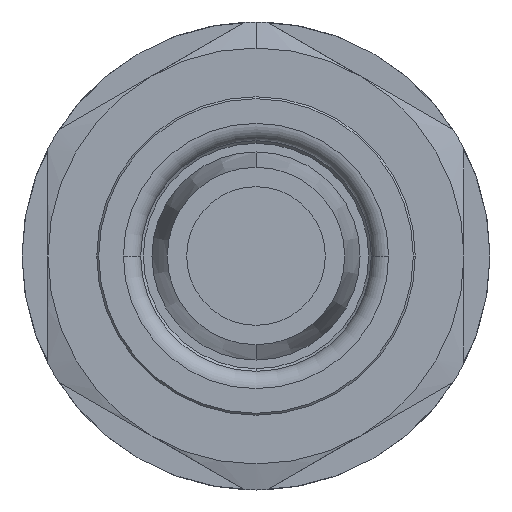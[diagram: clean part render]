
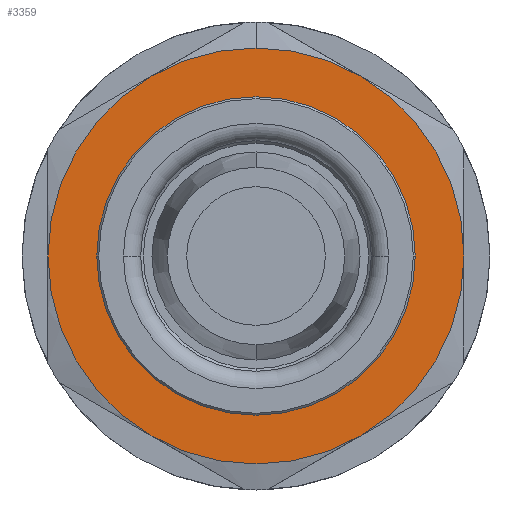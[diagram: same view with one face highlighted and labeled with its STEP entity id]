
A CAD part, front view. The second image highlights one B-rep face of the part: STEP entity #3359.
In plain terms, the highlighted planar face has unit normal (0, -1, 0).
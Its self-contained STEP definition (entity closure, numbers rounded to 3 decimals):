
#180 = DIRECTION ( 'NONE',  ( 0., 0., -1. ) ) ;
#451 = CIRCLE ( 'NONE', #4197, 9.188 ) ;
#568 = AXIS2_PLACEMENT_3D ( 'NONE', #6126, #11260, #2897 ) ;
#578 = VERTEX_POINT ( 'NONE', #930 ) ;
#930 = CARTESIAN_POINT ( 'NONE',  ( -6., -40., -10.392 ) ) ;
#1104 = AXIS2_PLACEMENT_3D ( 'NONE', #12212, #6114, #6158 ) ;
#1124 = CARTESIAN_POINT ( 'NONE',  ( 0., -40., 0. ) ) ;
#1163 = ORIENTED_EDGE ( 'NONE', *, *, #9741, .T. ) ;
#1365 = DIRECTION ( 'NONE',  ( 0., 0., -1. ) ) ;
#1403 = DIRECTION ( 'NONE',  ( 0., -1., 0. ) ) ;
#1471 = EDGE_CURVE ( 'NONE', #7799, #11295, #6418, .T. ) ;
#2328 = DIRECTION ( 'NONE',  ( 0., 0., -1. ) ) ;
#2413 = DIRECTION ( 'NONE',  ( 0., -1., 0. ) ) ;
#2723 = CARTESIAN_POINT ( 'NONE',  ( 0., -40., -9.188 ) ) ;
#2883 = ORIENTED_EDGE ( 'NONE', *, *, #12724, .T. ) ;
#2897 = DIRECTION ( 'NONE',  ( 0., 0., -1. ) ) ;
#2936 = EDGE_CURVE ( 'NONE', #578, #5709, #5578, .T. ) ;
#2962 = CIRCLE ( 'NONE', #5988, 12. ) ;
#3025 = DIRECTION ( 'NONE',  ( 0., 1., 0. ) ) ;
#3090 = DIRECTION ( 'NONE',  ( 0., -1., 0. ) ) ;
#3140 = DIRECTION ( 'NONE',  ( 0., 0., -1. ) ) ;
#3359 = ADVANCED_FACE ( 'NONE', ( #4927, #11381 ), #13203, .F. ) ;
#4152 = CARTESIAN_POINT ( 'NONE',  ( 0., -40., 0. ) ) ;
#4196 = EDGE_CURVE ( 'NONE', #6180, #5344, #8783, .T. ) ;
#4197 = AXIS2_PLACEMENT_3D ( 'NONE', #11907, #12942, #10852 ) ;
#4263 = DIRECTION ( 'NONE',  ( 0., -1., 0. ) ) ;
#4771 = AXIS2_PLACEMENT_3D ( 'NONE', #13240, #3025, #11118 ) ;
#4787 = VERTEX_POINT ( 'NONE', #2723 ) ;
#4927 = FACE_BOUND ( 'NONE', #9414, .T. ) ;
#5015 = EDGE_CURVE ( 'NONE', #11295, #6180, #2962, .T. ) ;
#5151 = CARTESIAN_POINT ( 'NONE',  ( 6., -40., -10.392 ) ) ;
#5344 = VERTEX_POINT ( 'NONE', #10456 ) ;
#5423 = EDGE_CURVE ( 'NONE', #5344, #578, #11817, .T. ) ;
#5453 = CARTESIAN_POINT ( 'NONE',  ( 0., -40., 9.188 ) ) ;
#5459 = CARTESIAN_POINT ( 'NONE',  ( 0., -40., 0. ) ) ;
#5578 = CIRCLE ( 'NONE', #12278, 12. ) ;
#5709 = VERTEX_POINT ( 'NONE', #5151 ) ;
#5903 = CIRCLE ( 'NONE', #8194, 12. ) ;
#5920 = CARTESIAN_POINT ( 'NONE',  ( -6., -40., 10.392 ) ) ;
#5988 = AXIS2_PLACEMENT_3D ( 'NONE', #11744, #7657, #11655 ) ;
#6114 = DIRECTION ( 'NONE',  ( 0., 1., 0. ) ) ;
#6126 = CARTESIAN_POINT ( 'NONE',  ( 0., -40., 0. ) ) ;
#6158 = DIRECTION ( 'NONE',  ( 0., 0., 1. ) ) ;
#6180 = VERTEX_POINT ( 'NONE', #5920 ) ;
#6269 = CARTESIAN_POINT ( 'NONE',  ( 0., -40., 12. ) ) ;
#6418 = CIRCLE ( 'NONE', #9941, 12. ) ;
#7243 = ORIENTED_EDGE ( 'NONE', *, *, #9731, .T. ) ;
#7367 = CIRCLE ( 'NONE', #8827, 12. ) ;
#7657 = DIRECTION ( 'NONE',  ( 0., -1., 0. ) ) ;
#7799 = VERTEX_POINT ( 'NONE', #12185 ) ;
#8093 = ORIENTED_EDGE ( 'NONE', *, *, #5015, .T. ) ;
#8194 = AXIS2_PLACEMENT_3D ( 'NONE', #9669, #2413, #1365 ) ;
#8587 = ORIENTED_EDGE ( 'NONE', *, *, #5423, .T. ) ;
#8676 = DIRECTION ( 'NONE',  ( 0., -1., 0. ) ) ;
#8783 = CIRCLE ( 'NONE', #568, 12. ) ;
#8817 = EDGE_CURVE ( 'NONE', #4787, #10960, #451, .T. ) ;
#8827 = AXIS2_PLACEMENT_3D ( 'NONE', #9581, #1403, #2328 ) ;
#9414 = EDGE_LOOP ( 'NONE', ( #11259, #2883 ) ) ;
#9581 = CARTESIAN_POINT ( 'NONE',  ( 0., -40., 0. ) ) ;
#9669 = CARTESIAN_POINT ( 'NONE',  ( 0., -40., 0. ) ) ;
#9731 = EDGE_CURVE ( 'NONE', #5709, #11358, #5903, .T. ) ;
#9741 = EDGE_CURVE ( 'NONE', #11358, #7799, #7367, .T. ) ;
#9941 = AXIS2_PLACEMENT_3D ( 'NONE', #5459, #8676, #12684 ) ;
#10382 = CARTESIAN_POINT ( 'NONE',  ( 12., -40., 0. ) ) ;
#10456 = CARTESIAN_POINT ( 'NONE',  ( -12., -40., 0. ) ) ;
#10475 = ORIENTED_EDGE ( 'NONE', *, *, #1471, .T. ) ;
#10715 = EDGE_LOOP ( 'NONE', ( #1163, #10475, #8093, #12951, #8587, #11878, #7243 ) ) ;
#10852 = DIRECTION ( 'NONE',  ( 0., 0., 1. ) ) ;
#10960 = VERTEX_POINT ( 'NONE', #5453 ) ;
#11118 = DIRECTION ( 'NONE',  ( 0., 0., 1. ) ) ;
#11259 = ORIENTED_EDGE ( 'NONE', *, *, #8817, .T. ) ;
#11260 = DIRECTION ( 'NONE',  ( 0., -1., 0. ) ) ;
#11295 = VERTEX_POINT ( 'NONE', #6269 ) ;
#11320 = CIRCLE ( 'NONE', #1104, 9.188 ) ;
#11358 = VERTEX_POINT ( 'NONE', #10382 ) ;
#11381 = FACE_OUTER_BOUND ( 'NONE', #10715, .T. ) ;
#11655 = DIRECTION ( 'NONE',  ( 0., 0., -1. ) ) ;
#11744 = CARTESIAN_POINT ( 'NONE',  ( 0., -40., 0. ) ) ;
#11817 = CIRCLE ( 'NONE', #12646, 12. ) ;
#11878 = ORIENTED_EDGE ( 'NONE', *, *, #2936, .T. ) ;
#11907 = CARTESIAN_POINT ( 'NONE',  ( 0., -40., 0. ) ) ;
#12185 = CARTESIAN_POINT ( 'NONE',  ( 6., -40., 10.392 ) ) ;
#12212 = CARTESIAN_POINT ( 'NONE',  ( 0., -40., 0. ) ) ;
#12278 = AXIS2_PLACEMENT_3D ( 'NONE', #4152, #3090, #3140 ) ;
#12646 = AXIS2_PLACEMENT_3D ( 'NONE', #1124, #4263, #180 ) ;
#12684 = DIRECTION ( 'NONE',  ( 0., 0., -1. ) ) ;
#12724 = EDGE_CURVE ( 'NONE', #10960, #4787, #11320, .T. ) ;
#12942 = DIRECTION ( 'NONE',  ( 0., 1., 0. ) ) ;
#12951 = ORIENTED_EDGE ( 'NONE', *, *, #4196, .T. ) ;
#13203 = PLANE ( 'NONE',  #4771 ) ;
#13240 = CARTESIAN_POINT ( 'NONE',  ( 0., -40., 0. ) ) ;
